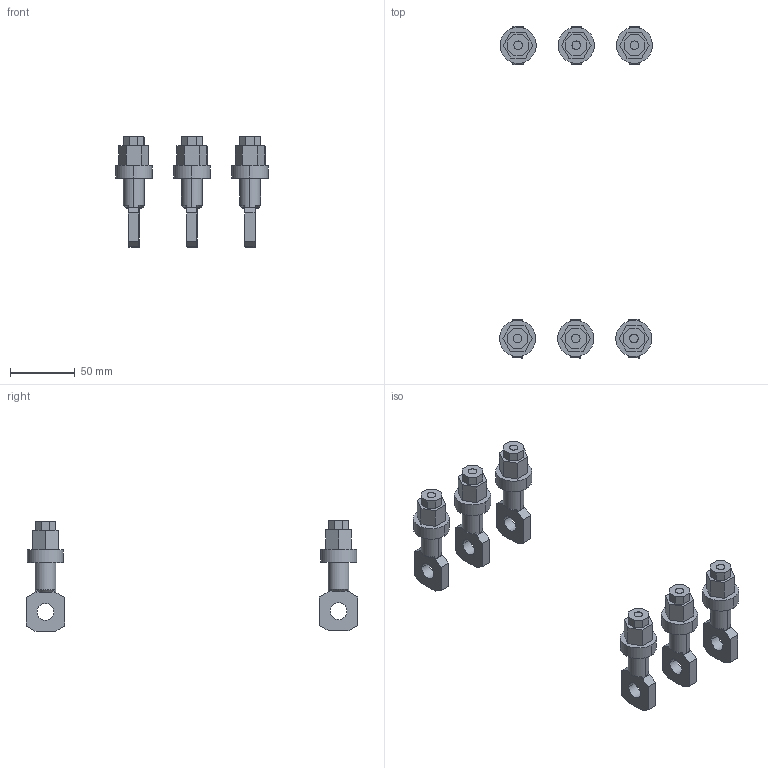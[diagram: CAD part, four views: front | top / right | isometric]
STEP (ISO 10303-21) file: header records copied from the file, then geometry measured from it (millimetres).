
FILE_DESCRIPTION (( 'STEP AP214' ), '1' );
FILE_NAME ('ÊÇÏ OptiMat D400, D630 6 øò êîðîòêèå âåðòèêàëüíûå.STEP', '2023-04-04T02:29:10', ( '' ), ( '' ), 'SwSTEP 2.0', 'SolidWorks 2018', '' );
FILE_SCHEMA (( 'AUTOMOTIVE_DESIGN' ));
Length unit declared in the file: millimetre
Products named in the file (2): 岆柉狙鉈滫貝 1; ÊÇÏ OptiMat D400, D630 6 øò êîðîòêèå âåðòèêàëüíûå
Assembly tree (6 placements, depth 2):
  ÊÇÏ OptiMat D400, D630 6 øò êîðîòêèå âåðòèêàëüíûå
    岆柉狙鉈滫貝 1  x6
Bounding box: 118.38 x 257 x 85.5 mm (x, y, z)
Volume: 130128.5 mm3; surface area: 45513.7 mm2
Topology: 6 solids, 6 shells, 270 faces, 684 edges, 456 vertices
Faces by surface type: plane 198, cylinder 60, cone 12
Entity records: 1468 total; most frequent: CARTESIAN_POINT 256, DIRECTION 244, ORIENTED_EDGE 228, EDGE_CURVE 114, LINE 84, VECTOR 84, AXIS2_PLACEMENT_3D 80, VERTEX_POINT 76
